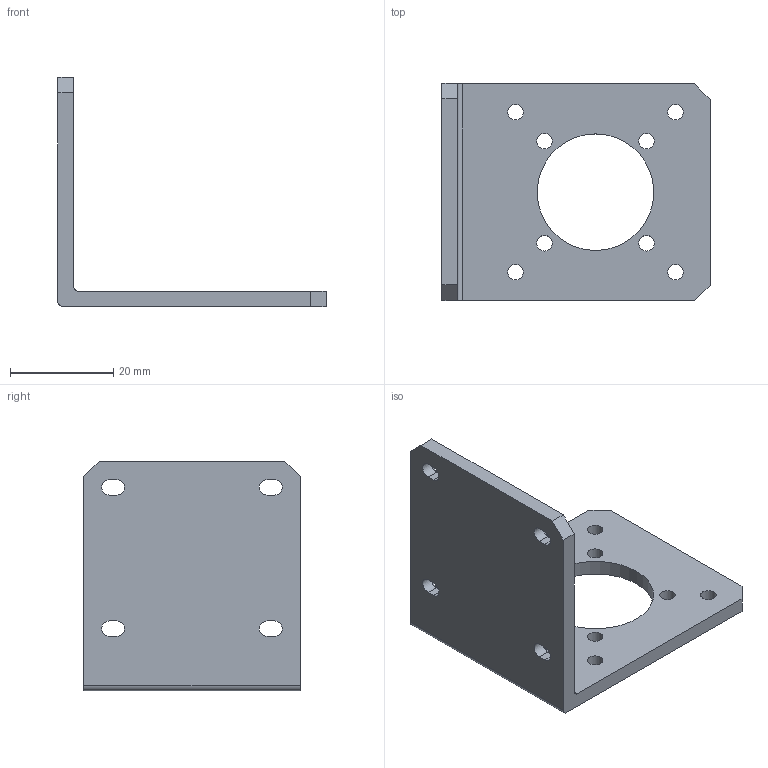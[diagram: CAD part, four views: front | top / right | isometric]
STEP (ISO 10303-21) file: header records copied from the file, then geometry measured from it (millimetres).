
FILE_DESCRIPTION(/* description */ ('Alibre Inc.'),/* implementation_level */ '2;1');
FILE_NAME(/* name */ 'export0',/* time_stamp */ '2014-04-22T09:39:19-06:00',/* author */ (''),/* organization */ (''),/* preprocessor_version */ 'ST-DEVELOPER v14',/* originating_system */ 'Alibre',/* authorisation */ '');
FILE_SCHEMA (('CONFIG_CONTROL_DESIGN'));
Length unit declared in the file: centimetre
Products named in the file (1): ID_1
Bounding box: 52 x 42.01 x 44.44 mm (x, y, z)
Volume: 10171.3 mm3; surface area: 8104.2 mm2
Topology: 1 solids, 1 shells, 64 faces, 162 edges, 100 vertices
Faces by surface type: plane 29, cylinder 19, cone 16
Full cylindrical faces by diameter (mm): 3 x8, 22.6 x1
Entity records: 1931 total; most frequent: CARTESIAN_POINT 309, DIRECTION 298, ORIENTED_EDGE 290, EDGE_CURVE 145, AXIS2_PLACEMENT_3D 118, EDGE_LOOP 107, FACE_BOUND 107, VERTEX_POINT 100
